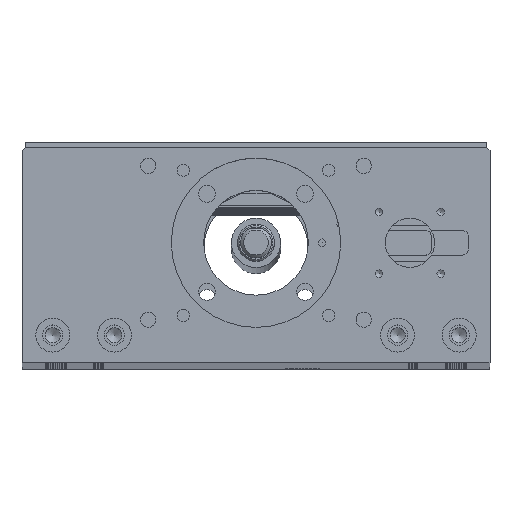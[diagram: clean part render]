
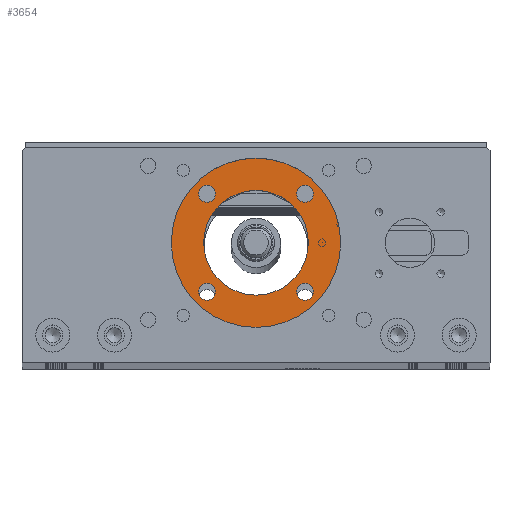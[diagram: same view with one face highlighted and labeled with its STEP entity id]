
A CAD part, top view. The second image highlights one B-rep face of the part: STEP entity #3654.
In plain terms, the highlighted planar face has unit normal (0, 0, 1) as drawn and (0, 0, -1) by its records, which use the part's own axes.
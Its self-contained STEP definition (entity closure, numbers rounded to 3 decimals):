
#3654=ADVANCED_FACE('',(#36295,#36297,#36299,#36301,#36303,#36305),#36307,.T.);
#36295=FACE_BOUND('',#36296,.T.);
#36296=EDGE_LOOP('',(#65939));
#36297=FACE_BOUND('',#36298,.T.);
#36298=EDGE_LOOP('',(#65940));
#36299=FACE_BOUND('',#36300,.T.);
#36300=EDGE_LOOP('',(#65941));
#36301=FACE_BOUND('',#36302,.T.);
#36302=EDGE_LOOP('',(#65942));
#36303=FACE_BOUND('',#36304,.T.);
#36304=EDGE_LOOP('',(#65943));
#36305=FACE_BOUND('',#36306,.T.);
#36306=EDGE_LOOP('',(#65944));
#36307=PLANE('',#36308);
#36308=AXIS2_PLACEMENT_3D('',#36309,#36310,#36311);
#36309=CARTESIAN_POINT('',(0.,0.,7.));
#36310=DIRECTION('',(0.,0.,-1.));
#36311=DIRECTION('',(-1.,0.,0.));
#65939=ORIENTED_EDGE('',*,*,#85030,.T.);
#65940=ORIENTED_EDGE('',*,*,#85031,.F.);
#65941=ORIENTED_EDGE('',*,*,#85032,.F.);
#65942=ORIENTED_EDGE('',*,*,#85033,.F.);
#65943=ORIENTED_EDGE('',*,*,#85034,.F.);
#65944=ORIENTED_EDGE('',*,*,#84990,.F.);
#84990=EDGE_CURVE('',#95515,#95515,#95516,.T.);
#85030=EDGE_CURVE('',#95591,#95591,#95592,.T.);
#85031=EDGE_CURVE('',#95593,#95593,#95594,.T.);
#85032=EDGE_CURVE('',#95595,#95595,#95596,.T.);
#85033=EDGE_CURVE('',#95597,#95597,#95598,.T.);
#85034=EDGE_CURVE('',#95599,#95599,#95600,.T.);
#95515=VERTEX_POINT('',#114013);
#95516=CIRCLE('',#114014,17.);
#95591=VERTEX_POINT('',#114204);
#95592=CIRCLE('',#114205,27.5);
#95593=VERTEX_POINT('',#114209);
#95594=CIRCLE('',#114210,2.75);
#95595=VERTEX_POINT('',#114214);
#95596=CIRCLE('',#114215,2.75);
#95597=VERTEX_POINT('',#114219);
#95598=CIRCLE('',#114220,2.75);
#95599=VERTEX_POINT('',#114224);
#95600=CIRCLE('',#114225,2.75);
#114013=CARTESIAN_POINT('',(59.,31.,7.));
#114014=AXIS2_PLACEMENT_3D('',#114015,#114016,#114017);
#114015=CARTESIAN_POINT('',(76.,31.,7.));
#114016=DIRECTION('',(0.,0.,-1.));
#114017=DIRECTION('',(-1.,0.,0.));
#114204=CARTESIAN_POINT('',(48.5,31.,7.));
#114205=AXIS2_PLACEMENT_3D('',#114206,#114207,#114208);
#114206=CARTESIAN_POINT('',(76.,31.,7.));
#114207=DIRECTION('',(0.,0.,-1.));
#114208=DIRECTION('',(-1.,0.,0.));
#114209=CARTESIAN_POINT('',(89.16,15.09,7.));
#114210=AXIS2_PLACEMENT_3D('',#114211,#114212,#114213);
#114211=CARTESIAN_POINT('',(91.91,15.09,7.));
#114212=DIRECTION('',(0.,0.,-1.));
#114213=DIRECTION('',(-1.,0.,0.));
#114214=CARTESIAN_POINT('',(57.34,15.09,7.));
#114215=AXIS2_PLACEMENT_3D('',#114216,#114217,#114218);
#114216=CARTESIAN_POINT('',(60.09,15.09,7.));
#114217=DIRECTION('',(0.,0.,-1.));
#114218=DIRECTION('',(-1.,0.,0.));
#114219=CARTESIAN_POINT('',(89.16,46.91,7.));
#114220=AXIS2_PLACEMENT_3D('',#114221,#114222,#114223);
#114221=CARTESIAN_POINT('',(91.91,46.91,7.));
#114222=DIRECTION('',(0.,0.,-1.));
#114223=DIRECTION('',(-1.,0.,0.));
#114224=CARTESIAN_POINT('',(57.34,46.91,7.));
#114225=AXIS2_PLACEMENT_3D('',#114226,#114227,#114228);
#114226=CARTESIAN_POINT('',(60.09,46.91,7.));
#114227=DIRECTION('',(0.,0.,-1.));
#114228=DIRECTION('',(-1.,0.,0.));
